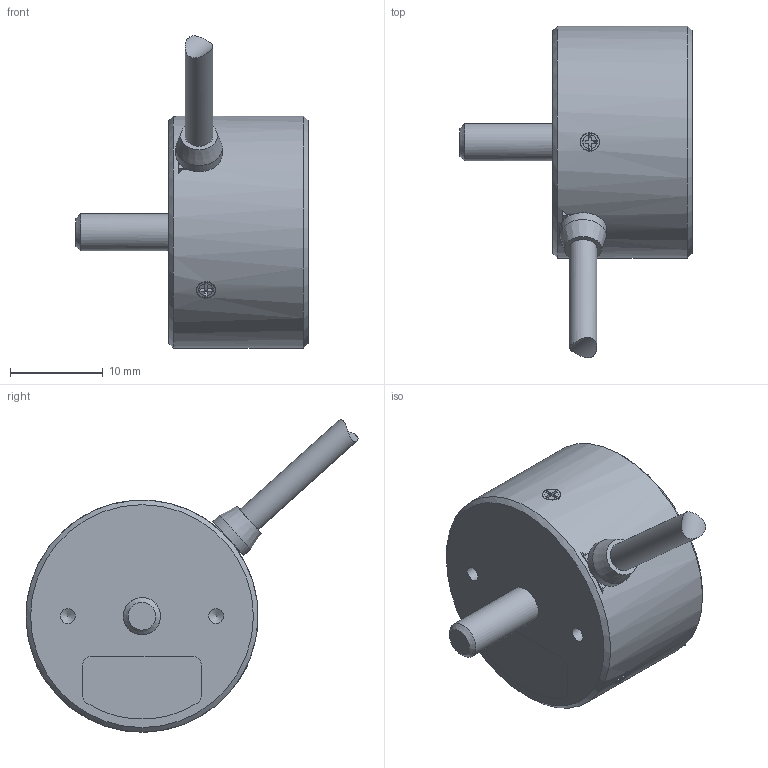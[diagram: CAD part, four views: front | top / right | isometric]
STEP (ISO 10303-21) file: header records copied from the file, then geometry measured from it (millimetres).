
FILE_DESCRIPTION(('STEP AP242'),'1');
FILE_NAME('N1.stp','2022-11-21T09:36:12',(' '),(' '),'Spatial InterOp 3D',' ',' ');
FILE_SCHEMA(('AP242_MANAGED_MODEL_BASED_3D_ENGINEERING_MIM_LF {1 0 10303 442 1 1 4}'));
Length unit declared in the file: millimetre
Products named in the file (7): L12A09A MAS-18-＊＊＊N1; 白色樹脂充填; 018211 サラ0番1種 M1.4x2.5 鉄 三価黒; 029848 8芯ケーブル(3.0)MG-12P; - ケーブル(簡易); - ブッシュ(3)
Assembly tree (8 placements, depth 3):
  L12A09A MAS-18-＊＊＊N1
    白色樹脂充填
    L12A09A MAS-18-＊＊＊N1
    018211 サラ0番1種 M1.4x2.5 鉄 三価黒  x3
    029848 8芯ケーブル(3.0)MG-12P
      - ケーブル(簡易)
      - ブッシュ(3)
Bounding box: 25 x 35.76 x 33.64 mm (x, y, z)
Volume: 7411.2 mm3; surface area: 4377.2 mm2
Topology: 7 solids, 7 shells, 156 faces, 377 edges, 246 vertices
Faces by surface type: plane 95, cylinder 46, cone 12, bspline 3
Full cylindrical faces by diameter (mm): 1.1 x3, 1.4 x6, 1.5 x3, 1.6 x4, 2 x3, 3 x2, 4 x1, 5 x1, 23.5 x1, 24.3 x1, 25 x1
Entity records: 5075 total; most frequent: CARTESIAN_POINT 1113, DIRECTION 550, ORIENTED_EDGE 476, EDGE_CURVE 238, AXIS2_PLACEMENT_3D 206, VERTEX_POINT 174, EDGE_LOOP 164, FACE_OUTER_BOUND 141
